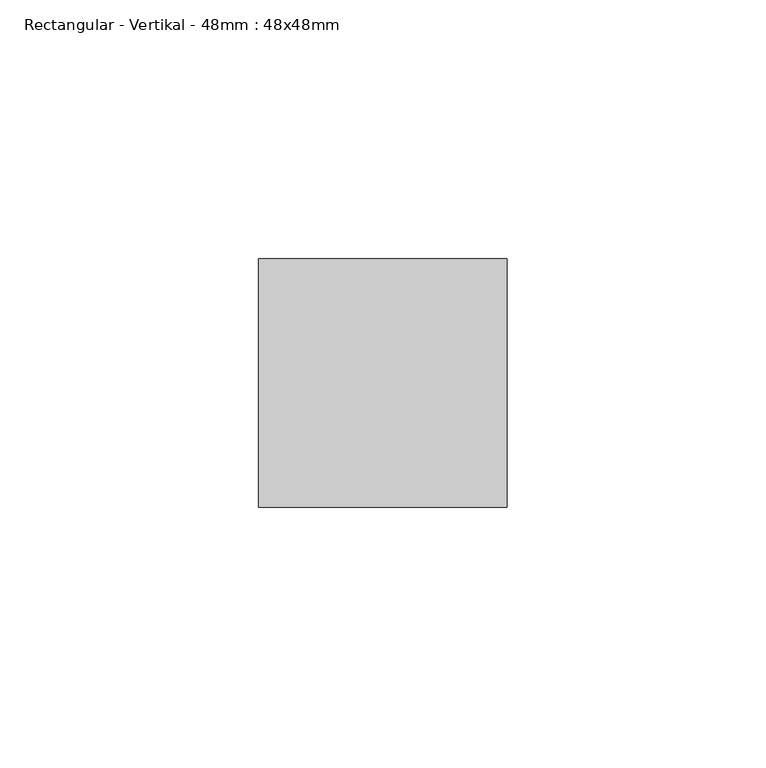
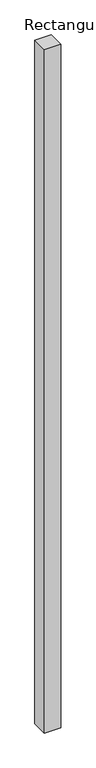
"""IFC4 building model written with IfcOpenShell, lengths in millimetres: proxy geometry, Rectangular - Vertikal - 48mm : 48x48mm."""

from ifc_helpers import new_model, si_unit, frame, origin, place, context, project, spatial, polyline, outline, extrude, source, transform, mapped, element, save


def rectangular_vertikal_48mm_48x48mm_4973d33b(model_context):
    return source(origin(), model_context, "Body", "SweptSolid", [
        extrude(outline(polyline([(0.0, 20.0), (48.0, 20.0), (48.0, -28.0), (0.0, -28.0), (0.0, 20.0)])), frame((0.0, 0.0, -1050.0025175), z_axis=(0.0, 0.0, 1.0), x_axis=(1.0, 0.0, 0.0)), (0.0, 0.0, 1.0), 2100.0),
    ])


if __name__ == "__main__":
    model = new_model("IFC4")
    model_context = context("Model", 3, world=origin())
    ifc_project = project(units=[si_unit("LENGTHUNIT", "METRE", prefix="MILLI")], contexts=[model_context])
    site = spatial("IfcSite", under=ifc_project)
    building = spatial("IfcBuilding", under=site)
    placement = place(None, origin())
    rectangular_vertikal_48mm_48x48mm_shape = rectangular_vertikal_48mm_48x48mm_4973d33b(model_context)
    element("IfcBuildingElementProxy", 1, Name="Rectangular - Vertikal - 48mm : 48x48mm", ObjectType="Rectangular - Vertikal - 48mm : 48x48mm", at=placement, inside=building, context=model_context, shape_type="MappedRepresentation", body=[
        mapped(rectangular_vertikal_48mm_48x48mm_shape, transform((0.0, 0.0, 0.0), x_axis=(1.0, 0.0, 0.0), y_axis=(0.0, 1.0, 0.0), z_axis=(0.0, 0.0, 1.0))),
    ])
    save(model, "model.ifc")
